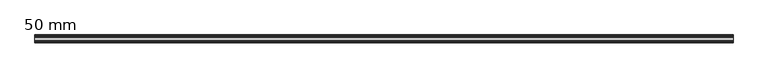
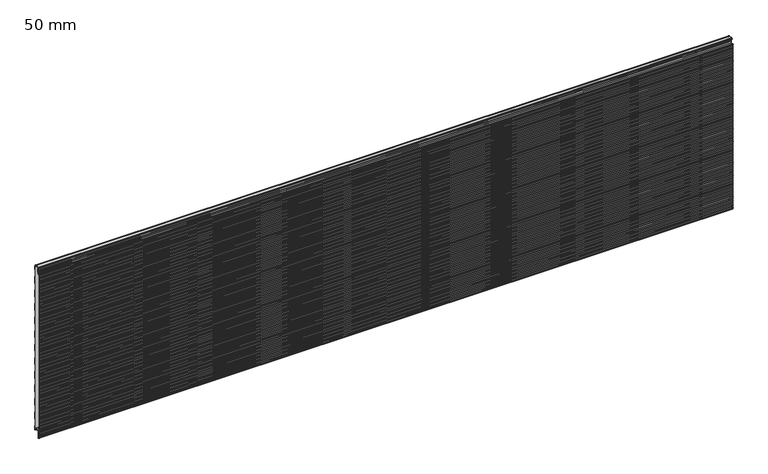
"""IFC4 building model written with IfcOpenShell, lengths in millimetres: plate geometry, HIANSA PANEL - H20.F05.001-HFM-PANELES DE FACHADA HOR - PANEL MICROPERFILADO - Panel de Muro Cortina : 50 mm."""

from ifc_helpers import new_model, si_unit, point, frame, frame_2d, origin, place, context, project, spatial, polyline, circle_curve, trimmed, segment, composite_curve, outline, extrude, source, transform, mapped, element, save


def plate_50_mm_21d456d9(model_context):
    return source(origin(), model_context, "Body", "SweptSolid", [
        extrude(outline(polyline([(-34.0928552, 1122.4810465), (-33.2950639, 1122.9800953), (-13.698739, 1122.9800953), (-12.9009477, 1122.4810465), (-34.0928552, 1122.4810465)])), frame((-2200.0, 0.0, 0.0), z_axis=(1.0, 0.0, 0.0), x_axis=(0.0, 1.0, 0.0)), (0.0, 0.0, 1.0), 4400.0),
        extrude(outline(polyline([(-34.0762276, 25.6210466), (-12.9205792, 25.6210466), (-13.7002597, 25.1210465), (-33.2965471, 25.1210465), (-34.0762276, 25.6210466)])), frame((-2200.0, 0.0, 0.0), z_axis=(1.0, 0.0, 0.0), x_axis=(0.0, 1.0, 0.0)), (0.0, 0.0, 1.0), 4400.0),
        extrude(outline(composite_curve([segment(polyline([(-39.4621895, -19.2009512), (-39.4621895, 22.7800953)]), True, "CONTINUOUS"), segment(trimmed(circle_curve(frame_2d((-36.6221895, 22.7800953)), 2.84), [point((-39.4621895, 22.7800953))], [point((-36.6221895, 25.6200953))], False, "CARTESIAN"), True, "CONTINUOUS"), segment(polyline([(-36.6221895, 25.6200953), (-34.0747442, 25.6200953), (-33.2950639, 25.1200953), (-36.6221895, 25.1200953)]), True, "CONTINUOUS"), segment(trimmed(circle_curve(frame_2d((-36.6221895, 22.7800953)), 2.34), [point((-36.6221895, 25.1200953))], [point((-38.9621895, 22.7800953))], True, "CARTESIAN"), True, "CONTINUOUS"), segment(polyline([(-38.9621895, 22.7800953), (-38.9621895, -19.0009512)]), True, "CONTINUOUS"), segment(trimmed(circle_curve(frame_2d((-39.6621895, -19.0009512)), 0.7), [point((-38.9621895, -19.0009512))], [point((-39.6621895, -19.7009512))], False, "CARTESIAN"), True, "CONTINUOUS"), segment(polyline([(-39.6621895, -19.7009512), (-43.4121895, -19.7009512)]), True, "CONTINUOUS"), segment(trimmed(circle_curve(frame_2d((-43.4121895, -19.0009512)), 0.7), [point((-43.4121895, -19.7009512))], [point((-44.1121895, -19.0009512))], False, "CARTESIAN"), True, "CONTINUOUS"), segment(polyline([(-44.1121895, -19.0009512), (-44.1121895, -10.8354413)]), True, "CONTINUOUS"), segment(trimmed(circle_curve(frame_2d((-45.4121895, -10.8354413)), 1.3), [point((-44.1121895, -10.8354413))], [point((-45.4121895, -9.5354413))], True, "CARTESIAN"), True, "CONTINUOUS"), segment(polyline([(-45.4121895, -9.5354413), (-47.8016102, -9.5354413)]), True, "CONTINUOUS"), segment(trimmed(circle_curve(frame_2d((-47.8016102, -7.9354413)), 1.6), [point((-47.8016102, -9.5354413))], [point((-49.3489873, -8.3424108))], False, "CARTESIAN"), True, "CONTINUOUS"), segment(polyline([(-49.3489873, -8.3424108), (-50.0, -5.8671339), (-48.9729658, 0.1648575), (-49.9990488, 6.1645587), (-48.9729147, 12.1645587), (-49.9990488, 18.1645587), (-48.9729147, 24.1645587), (-49.9990488, 30.1645587), (-48.9729147, 36.1645587), (-49.9990488, 42.1645587), (-48.9729147, 48.1645587), (-49.9990488, 54.1645587), (-48.9729147, 60.1645587), (-49.9990488, 66.1645587), (-48.9729147, 72.1645587), (-49.9990488, 78.1645587), (-48.9729147, 84.1645587), (-49.9990488, 90.1645587), (-48.9729147, 96.1645587), (-49.9990488, 102.1645587), (-48.9729147, 108.1645587), (-49.9990488, 114.1645587), (-48.9729147, 120.1645587), (-49.9990488, 126.1645587), (-48.9729147, 132.1645587), (-49.9990488, 138.1645587), (-48.9729147, 144.1645587), (-49.9990488, 150.1645587), (-48.9729147, 156.1645587), (-49.9990488, 162.1645587), (-48.9729147, 168.1645587), (-49.9990488, 174.1645587), (-48.9729147, 180.1645587), (-49.9990488, 186.1645587), (-48.9729147, 192.1645587), (-49.9990488, 198.1645587), (-48.9729147, 204.1645587), (-49.9990488, 210.1645587), (-48.9729147, 216.1645587), (-49.9990488, 222.1645587), (-48.9729147, 228.1645587), (-49.9990488, 234.1645587), (-48.9729147, 240.1645587), (-49.9990488, 246.1645587), (-48.9729147, 252.1645587), (-49.9990488, 258.1645587), (-48.9729147, 264.1645587), (-49.9990488, 270.1645587), (-48.9729147, 276.1645587), (-49.9990488, 282.1645587), (-48.9729147, 288.1645587), (-49.9990488, 294.1645587), (-48.9729147, 300.1645587), (-49.9990488, 306.1645587), (-48.9729147, 312.1645587), (-49.9990488, 318.1645587), (-48.9729147, 324.1645587), (-49.9990488, 330.1645587), (-48.9729147, 336.1645587), (-49.9990488, 342.1645587), (-48.9729147, 348.1645587), (-49.9990488, 354.1645587), (-48.9729147, 360.1645587), (-49.9990488, 366.1645587), (-48.9729147, 372.1645587), (-49.9990488, 378.1645587), (-48.9729147, 384.1645587), (-49.9990488, 390.1645587), (-48.9729147, 396.1645587), (-49.9990488, 402.1645587), (-48.9729147, 408.1645587), (-49.9990488, 414.1645587), (-48.9729147, 420.1645587), (-49.9990488, 426.1645587), (-48.9729147, 432.1645587), (-49.9990488, 438.1645587), (-48.9729147, 444.1645587), (-49.9990488, 450.1645587), (-48.9729147, 456.1645587), (-49.9990488, 462.1645587), (-48.9729147, 468.1645587), (-49.9990488, 474.1645587), (-48.9729147, 480.1645587), (-49.9990488, 486.1645587), (-48.9729147, 492.1645587), (-49.9990488, 498.1645587), (-48.9729147, 504.1645587), (-49.9990488, 510.1645587), (-48.9729147, 516.1645587), (-49.9990488, 522.1645587), (-48.9729147, 528.1645587), (-49.9990488, 534.1645587), (-48.9729147, 540.1645587), (-49.9990488, 546.1645587), (-48.9729147, 552.1645587), (-49.9990488, 558.1645587), (-48.9729147, 564.1645587), (-49.9990488, 570.1645587), (-48.9729147, 576.1645587), (-49.9990488, 582.1645587), (-48.9729147, 588.1645587), (-49.9990488, 594.1645587), (-48.9729147, 600.1645587), (-49.9990488, 606.1645587), (-48.9729147, 612.1645587), (-49.9990488, 618.1645587), (-48.9729147, 624.1645587), (-49.9990488, 630.1645587), (-48.9729147, 636.1645587), (-49.9990488, 642.1645587), (-48.9729147, 648.1645587), (-49.9990488, 654.1645587), (-48.9729147, 660.1645587), (-49.9990488, 666.1645587), (-48.9729147, 672.1645587), (-49.9990488, 678.1645587), (-48.9729147, 684.1645587), (-49.9990488, 690.1645587), (-48.9729147, 696.1645587), (-49.9990488, 702.1645587), (-48.9729147, 708.1645587), (-49.9990488, 714.1645587), (-48.9729147, 720.1645587), (-49.9990488, 726.1645587), (-48.9729147, 732.1645587), (-49.9990488, 738.1645587), (-48.9729147, 744.1645587), (-49.9990488, 750.1645587), (-48.9729147, 756.1645587), (-49.9990488, 762.1645587), (-48.9729147, 768.1645587), (-49.9990488, 774.1645587), (-48.9729147, 780.1645587), (-49.9990488, 786.1645587), (-48.9729147, 792.1645587), (-49.9990488, 798.1645587), (-48.9729147, 804.1645587), (-49.9990488, 810.1645587), (-48.9729147, 816.1645587), (-49.9990488, 822.1645587), (-48.9729147, 828.1645587), (-49.9990488, 834.1645587), (-48.9729147, 840.1645587), (-49.9990488, 846.1645587), (-48.9729147, 852.1645587), (-49.9990488, 858.1645587), (-48.9729147, 864.1645587), (-49.9990488, 870.1645587), (-48.9729147, 876.1645587), (-49.9990488, 882.1645587), (-48.9729147, 888.1645587), (-49.9990488, 894.1645587), (-48.9729147, 900.1645587), (-49.9990488, 906.1645587), (-48.9729147, 912.1645587), (-49.9990488, 918.1645587), (-48.9729147, 924.1645587), (-49.9990488, 930.1645587), (-48.9729147, 936.1645587), (-49.9990488, 942.1645587), (-48.9729147, 948.1645587), (-49.9990488, 954.1645587), (-48.9729147, 960.1645587), (-49.9990488, 966.1645587), (-48.9729147, 972.1645587), (-49.9990488, 978.1645587), (-48.9729147, 984.1645587), (-49.9990488, 990.1645587), (-48.9729147, 996.1645587), (-49.9990488, 1002.1645587), (-48.9729147, 1008.1645587), (-49.9990488, 1014.1645587), (-48.9729147, 1020.1645587), (-49.9990488, 1026.1645587), (-48.9729147, 1032.1645587), (-49.9990488, 1038.1645587), (-48.9729147, 1044.1645587), (-49.9990488, 1050.1645587), (-48.9729147, 1056.1645587), (-49.9990488, 1062.1645587), (-48.9729147, 1068.1645587), (-49.9990488, 1074.1645587), (-48.9729658, 1080.1642599), (-50.0, 1086.1962513), (-49.3489873, 1088.6715282)]), True, "CONTINUOUS"), segment(trimmed(circle_curve(frame_2d((-47.8016102, 1088.2645587)), 1.6), [point((-49.3489873, 1088.6715282))], [point((-47.8016102, 1089.8645587))], False, "CARTESIAN"), True, "CONTINUOUS"), segment(polyline([(-47.8016102, 1089.8645587), (-45.6621895, 1089.8645587)]), True, "CONTINUOUS"), segment(trimmed(circle_curve(frame_2d((-45.6621895, 1089.1645587)), 0.7), [point((-45.6621895, 1089.8645587))], [point((-44.9621895, 1089.1645587))], False, "CARTESIAN"), True, "CONTINUOUS"), segment(polyline([(-44.9621895, 1089.1645587), (-44.9621895, 1080.4990488)]), True, "CONTINUOUS"), segment(trimmed(circle_curve(frame_2d((-43.6621895, 1080.4990488)), 1.3), [point((-44.9621895, 1080.4990488))], [point((-43.6621895, 1079.1990488))], True, "CARTESIAN"), True, "CONTINUOUS"), segment(polyline([(-43.6621895, 1079.1990488), (-39.4121895, 1079.1990488)]), True, "CONTINUOUS"), segment(trimmed(circle_curve(frame_2d((-39.4121895, 1080.4990488)), 1.3), [point((-39.4121895, 1079.1990488))], [point((-38.1121895, 1080.4990488))], True, "CARTESIAN"), True, "CONTINUOUS"), segment(polyline([(-38.1121895, 1080.4990488), (-38.1121895, 1082.1003519)]), True, "CONTINUOUS"), segment(trimmed(circle_curve(frame_2d((-36.4121895, 1082.1003519)), 1.7), [point((-38.1121895, 1082.1003519))], [point((-37.3872694, 1083.4929104))], False, "CARTESIAN"), True, "CONTINUOUS"), segment(polyline([(-37.3872694, 1083.4929104), (-31.3297519, 1087.7344298)]), True, "CONTINUOUS"), segment(trimmed(circle_curve(frame_2d((-32.3621895, 1089.2089035)), 1.8), [point((-31.3297519, 1087.7344298))], [point((-30.5621895, 1089.2089035))], True, "CARTESIAN"), True, "CONTINUOUS"), segment(polyline([(-30.5621895, 1089.2089035), (-30.5621895, 1098.3598183), (-29.8467194, 1099.5990488)]), True, "CONTINUOUS"), segment(trimmed(circle_curve(frame_2d((-30.5395397, 1099.9990488)), 0.8), [point((-29.8467194, 1099.5990488))], [point((-29.8467194, 1100.3990488))], True, "CARTESIAN"), True, "CONTINUOUS"), segment(polyline([(-29.8467194, 1100.3990488), (-30.5621895, 1101.6382793), (-30.5621895, 1110.7891941)]), True, "CONTINUOUS"), segment(trimmed(circle_curve(frame_2d((-32.3621895, 1110.7891941)), 1.8), [point((-30.5621895, 1110.7891941))], [point((-31.3297519, 1112.2636677))], True, "CARTESIAN"), True, "CONTINUOUS"), segment(polyline([(-31.3297519, 1112.2636677), (-37.3872694, 1116.5051872)]), True, "CONTINUOUS"), segment(trimmed(circle_curve(frame_2d((-36.4121895, 1117.8977457)), 1.7), [point((-37.3872694, 1116.5051872))], [point((-38.1121895, 1117.8977457))], False, "CARTESIAN"), True, "CONTINUOUS"), segment(polyline([(-38.1121895, 1117.8977457), (-38.1121895, 1121.2800953)]), True, "CONTINUOUS"), segment(trimmed(circle_curve(frame_2d((-36.4121895, 1121.2800953)), 1.7), [point((-38.1121895, 1121.2800953))], [point((-36.4121895, 1122.9800953))], False, "CARTESIAN"), True, "CONTINUOUS"), segment(polyline([(-36.4121895, 1122.9800953), (-33.2950639, 1122.9800953), (-34.0943758, 1122.4800953), (-36.4121895, 1122.4800953)]), True, "CONTINUOUS"), segment(trimmed(circle_curve(frame_2d((-36.4121895, 1121.2800953)), 1.2), [point((-36.4121895, 1122.4800953))], [point((-37.6121895, 1121.2800953))], True, "CARTESIAN"), True, "CONTINUOUS"), segment(polyline([(-37.6121895, 1121.2800953), (-37.6121895, 1117.8977457)]), True, "CONTINUOUS"), segment(trimmed(circle_curve(frame_2d((-36.4121895, 1117.8977457)), 1.2), [point((-37.6121895, 1117.8977457))], [point((-37.1004812, 1116.9147632))], True, "CARTESIAN"), True, "CONTINUOUS"), segment(polyline([(-37.1004812, 1116.9147632), (-31.0429637, 1112.6732438)]), True, "CONTINUOUS"), segment(trimmed(circle_curve(frame_2d((-32.3621895, 1110.7891941)), 2.3), [point((-31.0429637, 1112.6732438))], [point((-30.0621895, 1110.7891941))], False, "CARTESIAN"), True, "CONTINUOUS"), segment(polyline([(-30.0621895, 1110.7891941), (-30.0621895, 1101.7722539), (-29.4137067, 1100.6490488)]), True, "CONTINUOUS"), segment(trimmed(circle_curve(frame_2d((-30.5395397, 1099.9990488)), 1.3), [point((-29.4137067, 1100.6490488))], [point((-29.4137067, 1099.3490488))], False, "CARTESIAN"), True, "CONTINUOUS"), segment(polyline([(-29.4137067, 1099.3490488), (-30.0621895, 1098.2258437), (-30.0621895, 1089.2089035)]), True, "CONTINUOUS"), segment(trimmed(circle_curve(frame_2d((-32.3621895, 1089.2089035)), 2.3), [point((-30.0621895, 1089.2089035))], [point((-31.0429637, 1087.3248538))], False, "CARTESIAN"), True, "CONTINUOUS"), segment(polyline([(-31.0429637, 1087.3248538), (-37.1004812, 1083.0833344)]), True, "CONTINUOUS"), segment(trimmed(circle_curve(frame_2d((-36.4121895, 1082.1003519)), 1.2), [point((-37.1004812, 1083.0833344))], [point((-37.6121895, 1082.1003519))], True, "CARTESIAN"), True, "CONTINUOUS"), segment(polyline([(-37.6121895, 1082.1003519), (-37.6121895, 1080.4990488)]), True, "CONTINUOUS"), segment(trimmed(circle_curve(frame_2d((-39.4121895, 1080.4990488)), 1.8), [point((-37.6121895, 1080.4990488))], [point((-39.4121895, 1078.6990488))], False, "CARTESIAN"), True, "CONTINUOUS"), segment(polyline([(-39.4121895, 1078.6990488), (-43.6621895, 1078.6990488)]), True, "CONTINUOUS"), segment(trimmed(circle_curve(frame_2d((-43.6621895, 1080.4990488)), 1.8), [point((-43.6621895, 1078.6990488))], [point((-45.4621895, 1080.4990488))], False, "CARTESIAN"), True, "CONTINUOUS"), segment(polyline([(-45.4621895, 1080.4990488), (-45.4621895, 1089.3645587), (-47.8016102, 1089.3645587)]), True, "CONTINUOUS"), segment(trimmed(circle_curve(frame_2d((-47.8016102, 1088.2645587)), 1.1), [point((-47.8016102, 1089.3645587))], [point((-48.8654319, 1088.5443502))], True, "CARTESIAN"), True, "CONTINUOUS"), segment(polyline([(-48.8654319, 1088.5443502), (-49.4889499, 1086.1736137), (-48.4657383, 1080.1640732), (-49.4917893, 1074.1645587), (-48.4656553, 1068.1645587), (-49.4917893, 1062.1645587), (-48.4656553, 1056.1645587), (-49.4917893, 1050.1645587), (-48.4656553, 1044.1645587), (-49.4917893, 1038.1645587), (-48.4656553, 1032.1645587), (-49.4917893, 1026.1645587), (-48.4656553, 1020.1645587), (-49.4917893, 1014.1645587), (-48.4656553, 1008.1645587), (-49.4917893, 1002.1645587), (-48.4656553, 996.1645587), (-49.4917893, 990.1645587), (-48.4656553, 984.1645587), (-49.4917893, 978.1645587), (-48.4656553, 972.1645587), (-49.4917893, 966.1645587), (-48.4656553, 960.1645587), (-49.4917893, 954.1645587), (-48.4656553, 948.1645587), (-49.4917893, 942.1645587), (-48.4656553, 936.1645587), (-49.4917893, 930.1645587), (-48.4656553, 924.1645587), (-49.4917893, 918.1645587), (-48.4656553, 912.1645587), (-49.4917893, 906.1645587), (-48.4656553, 900.1645587), (-49.4917893, 894.1645587), (-48.4656553, 888.1645587), (-49.4917893, 882.1645587), (-48.4656553, 876.1645587), (-49.4917893, 870.1645587), (-48.4656553, 864.1645587), (-49.4917893, 858.1645587), (-48.4656553, 852.1645587), (-49.4917893, 846.1645587), (-48.4656553, 840.1645587), (-49.4917893, 834.1645587), (-48.4656553, 828.1645587), (-49.4917893, 822.1645587), (-48.4656553, 816.1645587), (-49.4917893, 810.1645587), (-48.4656553, 804.1645587), (-49.4917893, 798.1645587), (-48.4656553, 792.1645587), (-49.4917893, 786.1645587), (-48.4656553, 780.1645587), (-49.4917893, 774.1645587), (-48.4656553, 768.1645587), (-49.4917893, 762.1645587), (-48.4656553, 756.1645587), (-49.4917893, 750.1645587), (-48.4656553, 744.1645587), (-49.4917893, 738.1645587), (-48.4656553, 732.1645587), (-49.4917893, 726.1645587), (-48.4656553, 720.1645587), (-49.4917893, 714.1645587), (-48.4656553, 708.1645587), (-49.4917893, 702.1645587), (-48.4656553, 696.1645587), (-49.4917893, 690.1645587), (-48.4656553, 684.1645587), (-49.4917893, 678.1645587), (-48.4656553, 672.1645587), (-49.4917893, 666.1645587), (-48.4656553, 660.1645587), (-49.4917893, 654.1645587), (-48.4656553, 648.1645587), (-49.4917893, 642.1645587), (-48.4656553, 636.1645587), (-49.4917893, 630.1645587), (-48.4656553, 624.1645587), (-49.4917893, 618.1645587), (-48.4656553, 612.1645587), (-49.4917893, 606.1645587), (-48.4656553, 600.1645587), (-49.4917893, 594.1645587), (-48.4656553, 588.1645587), (-49.4917893, 582.1645587), (-48.4656553, 576.1645587), (-49.4917893, 570.1645587), (-48.4656553, 564.1645587), (-49.4917893, 558.1645587), (-48.4656553, 552.1645587), (-49.4917893, 546.1645587), (-48.4656553, 540.1645587), (-49.4917893, 534.1645587), (-48.4656553, 528.1645587), (-49.4917893, 522.1645587), (-48.4656553, 516.1645587), (-49.4917893, 510.1645587), (-48.4656553, 504.1645587), (-49.4917893, 498.1645587), (-48.4656553, 492.1645587), (-49.4917893, 486.1645587), (-48.4656553, 480.1645587), (-49.4917893, 474.1645587), (-48.4656553, 468.1645587), (-49.4917893, 462.1645587), (-48.4656553, 456.1645587), (-49.4917893, 450.1645587), (-48.4656553, 444.1645587), (-49.4917893, 438.1645587), (-48.4656553, 432.1645587), (-49.4917893, 426.1645587), (-48.4656553, 420.1645587), (-49.4917893, 414.1645587), (-48.4656553, 408.1645587), (-49.4917893, 402.1645587), (-48.4656553, 396.1645587), (-49.4917893, 390.1645587), (-48.4656553, 384.1645587), (-49.4917893, 378.1645587), (-48.4656553, 372.1645587), (-49.4917893, 366.1645587), (-48.4656553, 360.1645587), (-49.4917893, 354.1645587), (-48.4656553, 348.1645587), (-49.4917893, 342.1645587), (-48.4656553, 336.1645587), (-49.4917893, 330.1645587), (-48.4656553, 324.1645587), (-49.4917893, 318.1645587), (-48.4656553, 312.1645587), (-49.4917893, 306.1645587), (-48.4656553, 300.1645587), (-49.4917893, 294.1645587), (-48.4656553, 288.1645587), (-49.4917893, 282.1645587), (-48.4656553, 276.1645587), (-49.4917893, 270.1645587), (-48.4656553, 264.1645587), (-49.4917893, 258.1645587), (-48.4656553, 252.1645587), (-49.4917893, 246.1645587), (-48.4656553, 240.1645587), (-49.4917893, 234.1645587), (-48.4656553, 228.1645587), (-49.4917893, 222.1645587), (-48.4656553, 216.1645587), (-49.4917893, 210.1645587), (-48.4656553, 204.1645587), (-49.4917893, 198.1645587), (-48.4656553, 192.1645587), (-49.4917893, 186.1645587), (-48.4656553, 180.1645587), (-49.4917893, 174.1645587), (-48.4656553, 168.1645587), (-49.4917893, 162.1645587), (-48.4656553, 156.1645587), (-49.4917893, 150.1645587), (-48.4656553, 144.1645587), (-49.4917893, 138.1645587), (-48.4656553, 132.1645587), (-49.4917893, 126.1645587), (-48.4656553, 120.1645587), (-49.4917893, 114.1645587), (-48.4656553, 108.1645587), (-49.4917893, 102.1645587), (-48.4656553, 96.1645587), (-49.4917893, 90.1645587), (-48.4656553, 84.1645587), (-49.4917893, 78.1645587), (-48.4656553, 72.1645587), (-49.4917893, 66.1645587), (-48.4656553, 60.1645587), (-49.4917893, 54.1645587), (-48.4656553, 48.1645587), (-49.4917893, 42.1645587), (-48.4656553, 36.1645587), (-49.4917893, 30.1645587), (-48.4656553, 24.1645587), (-49.4917893, 18.1645587), (-48.4656553, 12.1645587), (-49.4917893, 6.1645587), (-48.4657383, 0.1650443), (-49.4889499, -5.8444963), (-48.8654319, -8.2152328)]), True, "CONTINUOUS"), segment(trimmed(circle_curve(frame_2d((-47.8016102, -7.9354413)), 1.1), [point((-48.8654319, -8.2152328))], [point((-47.8016102, -9.0354413))], True, "CARTESIAN"), True, "CONTINUOUS"), segment(polyline([(-47.8016102, -9.0354413), (-45.4121895, -9.0354413)]), True, "CONTINUOUS"), segment(trimmed(circle_curve(frame_2d((-45.4121895, -10.8354413)), 1.8), [point((-45.4121895, -9.0354413))], [point((-43.6121895, -10.8354413))], False, "CARTESIAN"), True, "CONTINUOUS"), segment(polyline([(-43.6121895, -10.8354413), (-43.6121895, -19.2009512), (-39.4621895, -19.2009512)]), True, "CONTINUOUS")], self_intersect=False)), frame((-2200.0, 0.0, 0.0), z_axis=(1.0, 0.0, 0.0), x_axis=(0.0, 1.0, 0.0)), (0.0, 0.0, 1.0), 4400.0),
        extrude(outline(composite_curve([segment(polyline([(-45.4131407, -9.0344901), (-47.8025614, -9.0344901)]), True, "CONTINUOUS"), segment(trimmed(circle_curve(frame_2d((-47.8025614, -7.9344901)), 1.1), [point((-47.8025614, -9.0344901))], [point((-48.8663831, -8.2142816))], False, "CARTESIAN"), True, "CONTINUOUS"), segment(polyline([(-48.8663831, -8.2142816), (-49.4899011, -5.8435451), (-48.4666895, 0.1659955), (-49.4927406, 6.1655099), (-48.4666065, 12.1655099), (-49.4927406, 18.1655099), (-48.4666065, 24.1655099), (-49.4927406, 30.1655099), (-48.4666065, 36.1655099), (-49.4927406, 42.1655099), (-48.4666065, 48.1655099), (-49.4927406, 54.1655099), (-48.4666065, 60.1655099), (-49.4927406, 66.1655099), (-48.4666065, 72.1655099), (-49.4927406, 78.1655099), (-48.4666065, 84.1655099), (-49.4927406, 90.1655099), (-48.4666065, 96.1655099), (-49.4927406, 102.1655099), (-48.4666065, 108.1655099), (-49.4927406, 114.1655099), (-48.4666065, 120.1655099), (-49.4927406, 126.1655099), (-48.4666065, 132.1655099), (-49.4927406, 138.1655099), (-48.4666065, 144.1655099), (-49.4927406, 150.1655099), (-48.4666065, 156.1655099), (-49.4927406, 162.1655099), (-48.4666065, 168.1655099), (-49.4927406, 174.1655099), (-48.4666065, 180.1655099), (-49.4927406, 186.1655099), (-48.4666065, 192.1655099), (-49.4927406, 198.1655099), (-48.4666065, 204.1655099), (-49.4927406, 210.1655099), (-48.4666065, 216.1655099), (-49.4927406, 222.1655099), (-48.4666065, 228.1655099), (-49.4927406, 234.1655099), (-48.4666065, 240.1655099), (-49.4927406, 246.1655099), (-48.4666065, 252.1655099), (-49.4927406, 258.1655099), (-48.4666065, 264.1655099), (-49.4927406, 270.1655099), (-48.4666065, 276.1655099), (-49.4927406, 282.1655099), (-48.4666065, 288.1655099), (-49.4927406, 294.1655099), (-48.4666065, 300.1655099), (-49.4927406, 306.1655099), (-48.4666065, 312.1655099), (-49.4927406, 318.1655099), (-48.4666065, 324.1655099), (-49.4927406, 330.1655099), (-48.4666065, 336.1655099), (-49.4927406, 342.1655099), (-48.4666065, 348.1655099), (-49.4927406, 354.1655099), (-48.4666065, 360.1655099), (-49.4927406, 366.1655099), (-48.4666065, 372.1655099), (-49.4927406, 378.1655099), (-48.4666065, 384.1655099), (-49.4927406, 390.1655099), (-48.4666065, 396.1655099), (-49.4927406, 402.1655099), (-48.4666065, 408.1655099), (-49.4927406, 414.1655099), (-48.4666065, 420.1655099), (-49.4927406, 426.1655099), (-48.4666065, 432.1655099), (-49.4927406, 438.1655099), (-48.4666065, 444.1655099), (-49.4927406, 450.1655099), (-48.4666065, 456.1655099), (-49.4927406, 462.1655099), (-48.4666065, 468.1655099), (-49.4927406, 474.1655099), (-48.4666065, 480.1655099), (-49.4927406, 486.1655099), (-48.4666065, 492.1655099), (-49.4927406, 498.1655099), (-48.4666065, 504.1655099), (-49.4927406, 510.1655099), (-48.4666065, 516.1655099), (-49.4927406, 522.1655099), (-48.4666065, 528.1655099), (-49.4927406, 534.1655099), (-48.4666065, 540.1655099), (-49.4927406, 546.1655099), (-48.4666065, 552.1655099), (-49.4927406, 558.1655099), (-48.4666065, 564.1655099), (-49.4927406, 570.1655099), (-48.4666065, 576.1655099), (-49.4927406, 582.1655099), (-48.4666065, 588.1655099), (-49.4927406, 594.1655099), (-48.4666065, 600.1655099), (-49.4927406, 606.1655099), (-48.4666065, 612.1655099), (-49.4927406, 618.1655099), (-48.4666065, 624.1655099), (-49.4927406, 630.1655099), (-48.4666065, 636.1655099), (-49.4927406, 642.1655099), (-48.4666065, 648.1655099), (-49.4927406, 654.1655099), (-48.4666065, 660.1655099), (-49.4927406, 666.1655099), (-48.4666065, 672.1655099), (-49.4927406, 678.1655099), (-48.4666065, 684.1655099), (-49.4927406, 690.1655099), (-48.4666065, 696.1655099), (-49.4927406, 702.1655099), (-48.4666065, 708.1655099), (-49.4927406, 714.1655099), (-48.4666065, 720.1655099), (-49.4927406, 726.1655099), (-48.4666065, 732.1655099), (-49.4927406, 738.1655099), (-48.4666065, 744.1655099), (-49.4927406, 750.1655099), (-48.4666065, 756.1655099), (-49.4927406, 762.1655099), (-48.4666065, 768.1655099), (-49.4927406, 774.1655099), (-48.4666065, 780.1655099), (-49.4927406, 786.1655099), (-48.4666065, 792.1655099), (-49.4927406, 798.1655099), (-48.4666065, 804.1655099), (-49.4927406, 810.1655099), (-48.4666065, 816.1655099), (-49.4927406, 822.1655099), (-48.4666065, 828.1655099), (-49.4927406, 834.1655099), (-48.4666065, 840.1655099), (-49.4927406, 846.1655099), (-48.4666065, 852.1655099), (-49.4927406, 858.1655099), (-48.4666065, 864.1655099), (-49.4927406, 870.1655099), (-48.4666065, 876.1655099), (-49.4927406, 882.1655099), (-48.4666065, 888.1655099), (-49.4927406, 894.1655099), (-48.4666065, 900.1655099), (-49.4927406, 906.1655099), (-48.4666065, 912.1655099), (-49.4927406, 918.1655099), (-48.4666065, 924.1655099), (-49.4927406, 930.1655099), (-48.4666065, 936.1655099), (-49.4927406, 942.1655099), (-48.4666065, 948.1655099), (-49.4927406, 954.1655099), (-48.4666065, 960.1655099), (-49.4927406, 966.1655099), (-48.4666065, 972.1655099), (-49.4927406, 978.1655099), (-48.4666065, 984.1655099), (-49.4927406, 990.1655099), (-48.4666065, 996.1655099), (-49.4927406, 1002.1655099), (-48.4666065, 1008.1655099), (-49.4927406, 1014.1655099), (-48.4666065, 1020.1655099), (-49.4927406, 1026.1655099), (-48.4666065, 1032.1655099), (-49.4927406, 1038.1655099), (-48.4666065, 1044.1655099), (-49.4927406, 1050.1655099), (-48.4666065, 1056.1655099), (-49.4927406, 1062.1655099), (-48.4666065, 1068.1655099), (-49.4927406, 1074.1655099), (-48.4666895, 1080.1650244), (-49.4899011, 1086.1745649), (-48.8663831, 1088.5453014)]), True, "CONTINUOUS"), segment(trimmed(circle_curve(frame_2d((-47.8025614, 1088.2655099)), 1.1), [point((-48.8663831, 1088.5453014))], [point((-47.8025614, 1089.3655099))], False, "CARTESIAN"), True, "CONTINUOUS"), segment(polyline([(-47.8025614, 1089.3655099), (-45.4631407, 1089.3655099), (-45.4631407, 1080.5)]), True, "CONTINUOUS"), segment(trimmed(circle_curve(frame_2d((-43.6631407, 1080.5)), 1.8), [point((-45.4631407, 1080.5))], [point((-43.6631407, 1078.7))], True, "CARTESIAN"), True, "CONTINUOUS"), segment(polyline([(-43.6631407, 1078.7), (-39.4131407, 1078.7)]), True, "CONTINUOUS"), segment(trimmed(circle_curve(frame_2d((-39.4131407, 1080.5)), 1.8), [point((-39.4131407, 1078.7))], [point((-37.6131407, 1080.5))], True, "CARTESIAN"), True, "CONTINUOUS"), segment(polyline([(-37.6131407, 1080.5), (-37.6131407, 1082.1013031)]), True, "CONTINUOUS"), segment(trimmed(circle_curve(frame_2d((-36.4131407, 1082.1013031)), 1.2), [point((-37.6131407, 1082.1013031))], [point((-37.1014324, 1083.0842856))], False, "CARTESIAN"), True, "CONTINUOUS"), segment(polyline([(-37.1014324, 1083.0842856), (-31.0439149, 1087.325805)]), True, "CONTINUOUS"), segment(trimmed(circle_curve(frame_2d((-32.3631408, 1089.2098547)), 2.3000001), [point((-31.0439149, 1087.325805))], [point((-30.0631407, 1089.2098547))], True, "CARTESIAN"), True, "CONTINUOUS"), segment(polyline([(-30.0631407, 1089.2098547), (-30.0631407, 1098.2267949), (-29.4146579, 1099.35)]), True, "CONTINUOUS"), segment(trimmed(circle_curve(frame_2d((-30.5404909, 1100.0)), 1.3), [point((-29.4146579, 1099.35))], [point((-29.4146579, 1100.65))], True, "CARTESIAN"), True, "CONTINUOUS"), segment(polyline([(-29.4146579, 1100.65), (-30.0631407, 1101.7732051), (-30.0631407, 1110.7901453)]), True, "CONTINUOUS"), segment(trimmed(circle_curve(frame_2d((-32.3631407, 1110.7901453)), 2.2999999), [point((-30.0631407, 1110.7901453))], [point((-31.0439149, 1112.6741949))], True, "CARTESIAN"), True, "CONTINUOUS"), segment(polyline([(-31.0439149, 1112.6741949), (-37.1014324, 1116.9157143)]), True, "CONTINUOUS"), segment(trimmed(circle_curve(frame_2d((-36.4131408, 1117.8986968)), 1.1999999), [point((-37.1014324, 1116.9157143))], [point((-37.6131407, 1117.8986968))], False, "CARTESIAN"), True, "CONTINUOUS"), segment(polyline([(-37.6131407, 1117.8986968), (-37.6131407, 1121.2810465)]), True, "CONTINUOUS"), segment(trimmed(circle_curve(frame_2d((-36.4131407, 1121.2810465)), 1.2000001), [point((-37.6131407, 1121.2810465))], [point((-36.4131407, 1122.4810465))], False, "CARTESIAN"), True, "CONTINUOUS"), segment(polyline([(-36.4131407, 1122.4810465), (-7.75, 1122.4810465)]), True, "CONTINUOUS"), segment(trimmed(circle_curve(frame_2d((-7.75, 1121.4810465)), 1.0), [point((-7.75, 1122.4810465))], [point((-6.75, 1121.4810465))], False, "CARTESIAN"), True, "CONTINUOUS"), segment(polyline([(-6.75, 1121.4810465), (-6.75, 1115.3317319)]), True, "CONTINUOUS"), segment(trimmed(circle_curve(frame_2d((-4.746, 1115.3317319)), 2.004), [point((-6.75, 1115.3317319))], [point((-4.746, 1113.3277319))], True, "CARTESIAN"), True, "CONTINUOUS"), segment(polyline([(-4.746, 1113.3277319), (-1.5, 1113.3277319)]), True, "CONTINUOUS"), segment(trimmed(circle_curve(frame_2d((-1.5, 1112.3277319)), 1.0), [point((-1.5, 1113.3277319))], [point((-0.5, 1112.3277319))], False, "CARTESIAN"), True, "CONTINUOUS"), segment(polyline([(-0.5, 1112.3277319), (-0.5, 1087.4488708), (-1.5, 1084.4488708), (-1.5, 1044.2865931), (-0.5, 1041.2865931), (-0.5, 996.4488708), (-1.5, 993.4488708), (-1.5, 953.2865931), (-0.5, 950.2865931), (-0.5, 905.4488708), (-1.5, 902.4488708), (-1.5, 862.2865931), (-0.5, 859.2865931), (-0.5, 814.4488708), (-1.5, 811.4488708), (-1.5, 771.2865931), (-0.5, 768.2865931), (-0.5, 723.4488708), (-1.5, 720.4488708), (-1.5, 680.2865931), (-0.5, 677.2865931), (-0.5, 632.4488708), (-1.5, 629.4488708), (-1.5, 589.2865931), (-0.5, 586.2865931), (-0.5, 541.4488708), (-1.5, 538.4488708), (-1.5, 498.2865931), (-0.5, 495.2865931), (-0.5, 450.4488708), (-1.5, 447.4488708), (-1.5, 407.2865931), (-0.5, 404.2865931), (-0.5, 359.4488708), (-1.5, 356.4488708), (-1.5, 316.2865931), (-0.5, 313.2865931), (-0.5, 268.4488708), (-1.5, 265.4488708), (-1.5, 225.2865931), (-0.5, 222.2865931), (-0.5, 177.4488708), (-1.5, 174.4488708), (-1.5, 134.2865931), (-0.5, 131.2865931), (-0.5, 86.4488708), (-1.5, 83.4488708), (-1.5, 43.2865931), (-0.4999995, 40.2865931), (-0.4999995, 15.3677318)]), True, "CONTINUOUS"), segment(trimmed(circle_curve(frame_2d((-1.4999993, 15.3677318)), 0.9999997), [point((-0.4999995, 15.3677318))], [point((-1.4999993, 14.3677321))], False, "CARTESIAN"), True, "CONTINUOUS"), segment(polyline([(-1.4999993, 14.3677321), (-4.4999993, 14.367726)]), True, "CONTINUOUS"), segment(trimmed(circle_curve(frame_2d((-4.4999993, 15.367732)), 1.0000061), [point((-4.4999993, 14.367726))], [point((-5.5000054, 15.367732))], False, "CARTESIAN"), True, "CONTINUOUS"), segment(polyline([(-5.5000054, 15.367732), (-5.5000054, 23.5810465)]), True, "CONTINUOUS"), segment(trimmed(circle_curve(frame_2d((-7.5400056, 23.5810465)), 2.0400001), [point((-5.5000054, 23.5810465))], [point((-7.5400056, 25.6210466))], True, "CARTESIAN"), True, "CONTINUOUS"), segment(polyline([(-7.5400056, 25.6210466), (-36.6231406, 25.6210466)]), True, "CONTINUOUS"), segment(trimmed(circle_curve(frame_2d((-36.6231406, 22.7810466)), 2.84), [point((-36.6231406, 25.6210466))], [point((-39.4631407, 22.7810466))], True, "CARTESIAN"), True, "CONTINUOUS"), segment(polyline([(-39.4631407, 22.7810466), (-39.4631407, -19.2), (-43.6131407, -19.2), (-43.6131407, -10.8344901)]), True, "CONTINUOUS"), segment(trimmed(circle_curve(frame_2d((-45.4131407, -10.8344901)), 1.8), [point((-43.6131407, -10.8344901))], [point((-45.4131407, -9.0344901))], True, "CARTESIAN"), True, "CONTINUOUS")], self_intersect=False)), frame((-2200.0, 0.0, 0.0), z_axis=(1.0, 0.0, 0.0), x_axis=(0.0, 1.0, 0.0)), (0.0, 0.0, 1.0), 4400.0),
        extrude(outline(composite_curve([segment(trimmed(circle_curve(frame_2d((-7.5400057, 23.5810465)), 2.04), [point((-7.5400057, 25.6210465))], [point((-5.5000057, 23.5810465))], False, "CARTESIAN"), True, "CONTINUOUS"), segment(polyline([(-5.5000057, 23.5810465), (-5.5000057, 15.3677319)]), True, "CONTINUOUS"), segment(trimmed(circle_curve(frame_2d((-4.5, 15.3677319)), 1.0000057), [point((-5.5000057, 15.3677319))], [point((-4.4999981, 14.3677262))], True, "CARTESIAN"), True, "CONTINUOUS"), segment(polyline([(-4.4999981, 14.3677262), (-1.4999981, 14.3677319)]), True, "CONTINUOUS"), segment(trimmed(circle_curve(frame_2d((-1.5, 15.3677319)), 1.0), [point((-1.4999981, 14.3677319))], [point((-0.5, 15.3677319))], True, "CARTESIAN"), True, "CONTINUOUS"), segment(polyline([(-0.5, 15.3677319), (-0.5, 40.2865931), (-1.5, 43.2865931), (-1.5, 83.4488708), (-0.5, 86.4488708), (-0.5, 131.2865931), (-1.5, 134.2865931), (-1.5, 174.4488708), (-0.5, 177.4488708), (-0.5, 222.2865931), (-1.5, 225.2865931), (-1.5, 265.4488708), (-0.5, 268.4488708), (-0.5, 313.2865931), (-1.5, 316.2865931), (-1.5, 356.4488708), (-0.5, 359.4488708), (-0.5, 404.2865931), (-1.5, 407.2865931), (-1.5, 447.4488708), (-0.5, 450.4488708), (-0.5, 495.2865931), (-1.5, 498.2865931), (-1.5, 538.4488708), (-0.5, 541.4488708), (-0.5, 586.2865931), (-1.5, 589.2865931), (-1.5, 629.4488708), (-0.5, 632.4488708), (-0.5, 677.2865931), (-1.5, 680.2865931), (-1.5, 720.4488708), (-0.5, 723.4488708), (-0.5, 768.2865931), (-1.5, 771.2865931), (-1.5, 811.4488708), (-0.5, 814.4488708), (-0.5, 859.2865931), (-1.5, 862.2865931), (-1.5, 902.4488708), (-0.5, 905.4488708), (-0.5, 950.2865931), (-1.5, 953.2865931), (-1.5, 993.4488708), (-0.5, 996.4488708), (-0.5, 1041.2865931), (-1.5, 1044.2865931), (-1.5, 1084.4488708), (-0.5, 1087.4488708), (-0.5, 1112.3277319)]), True, "CONTINUOUS"), segment(trimmed(circle_curve(frame_2d((-1.5, 1112.3277319)), 1.0), [point((-0.5, 1112.3277319))], [point((-1.5, 1113.3277319))], True, "CARTESIAN"), True, "CONTINUOUS"), segment(polyline([(-1.5, 1113.3277319), (-4.746, 1113.3277319)]), True, "CONTINUOUS"), segment(trimmed(circle_curve(frame_2d((-4.746, 1115.3317319)), 2.004), [point((-4.746, 1113.3277319))], [point((-6.75, 1115.3317319))], False, "CARTESIAN"), True, "CONTINUOUS"), segment(polyline([(-6.75, 1115.3317319), (-6.75, 1121.4810465)]), True, "CONTINUOUS"), segment(trimmed(circle_curve(frame_2d((-7.75, 1121.4810465)), 1.0), [point((-6.75, 1121.4810465))], [point((-7.75, 1122.4810465))], True, "CARTESIAN"), True, "CONTINUOUS"), segment(polyline([(-7.75, 1122.4810465), (-12.9009477, 1122.4810465), (-13.7002597, 1122.9810465), (-7.7500057, 1122.9810465)]), True, "CONTINUOUS"), segment(trimmed(circle_curve(frame_2d((-7.7500057, 1121.4810465)), 1.5), [point((-7.7500057, 1122.9810465))], [point((-6.2500057, 1121.4810465))], False, "CARTESIAN"), True, "CONTINUOUS"), segment(polyline([(-6.2500057, 1121.4810465), (-6.2500057, 1115.331727)]), True, "CONTINUOUS"), segment(trimmed(circle_curve(frame_2d((-4.7460057, 1115.331727)), 1.504), [point((-6.2500057, 1115.331727))], [point((-4.7460034, 1113.827727))], True, "CARTESIAN"), True, "CONTINUOUS"), segment(polyline([(-4.7460034, 1113.827727), (-1.5000023, 1113.8277319)]), True, "CONTINUOUS"), segment(trimmed(circle_curve(frame_2d((-1.5, 1112.3277319)), 1.5), [point((-1.5000023, 1113.8277319))], [point((0.0, 1112.3277319))], False, "CARTESIAN"), True, "CONTINUOUS"), segment(polyline([(0.0, 1112.3277319), (0.0, 1087.3677319), (-1.0, 1084.3677319), (-1.0, 1044.3677319), (0.0, 1041.3677319), (0.0, 996.3677319), (-1.0, 993.3677319), (-1.0, 953.3677319), (0.0, 950.3677319), (0.0, 905.3677319), (-1.0, 902.3677319), (-1.0, 862.3677319), (0.0, 859.3677319), (0.0, 814.3677319), (-1.0, 811.3677319), (-1.0, 771.3677319), (0.0, 768.3677319), (0.0, 723.3677319), (-1.0, 720.3677319), (-1.0, 680.3677319), (0.0, 677.3677319), (0.0, 632.3677319), (-1.0, 629.3677319), (-1.0, 589.3677319), (0.0, 586.3677319), (0.0, 541.3677319), (-1.0, 538.3677319), (-1.0, 498.3677319), (0.0, 495.3677319), (0.0, 450.3677319), (-1.0, 447.3677319), (-1.0, 407.3677319), (0.0, 404.3677319), (0.0, 359.3677319), (-1.0, 356.3677319), (-1.0, 316.3677319), (0.0, 313.3677319), (0.0, 268.3677319), (-1.0, 265.3677319), (-1.0, 225.3677319), (0.0, 222.3677319), (0.0, 177.3677319), (-1.0, 174.3677319), (-1.0, 134.3677319), (0.0, 131.3677319), (0.0, 86.3677319), (-1.0, 83.3677319), (-1.0, 43.3677319), (0.0, 40.3677319), (0.0, 15.3677319)]), True, "CONTINUOUS"), segment(trimmed(circle_curve(frame_2d((-1.5, 15.3677319)), 1.5), [point((0.0, 15.3677319))], [point((-1.5, 13.8677319))], False, "CARTESIAN"), True, "CONTINUOUS"), segment(polyline([(-1.5, 13.8677319), (-4.5, 13.8677319)]), True, "CONTINUOUS"), segment(trimmed(circle_curve(frame_2d((-4.5, 15.3677319)), 1.5), [point((-4.5, 13.8677319))], [point((-6.0, 15.3677319))], False, "CARTESIAN"), True, "CONTINUOUS"), segment(polyline([(-6.0, 15.3677319), (-6.0, 23.5810465)]), True, "CONTINUOUS"), segment(trimmed(circle_curve(frame_2d((-7.54, 23.5810465)), 1.54), [point((-6.0, 23.5810465))], [point((-7.54, 25.1210465))], True, "CARTESIAN"), True, "CONTINUOUS"), segment(polyline([(-7.54, 25.1210465), (-13.7002597, 25.1210465), (-12.9205793, 25.6210465), (-7.5400057, 25.6210465)]), True, "CONTINUOUS")], self_intersect=False)), frame((-2200.0, 0.0, 0.0), z_axis=(1.0, 0.0, 0.0), x_axis=(0.0, 1.0, 0.0)), (0.0, 0.0, 1.0), 4400.0),
    ])


if __name__ == "__main__":
    model = new_model("IFC4")
    model_context = context("Model", 3, world=origin())
    ifc_project = project(units=[si_unit("LENGTHUNIT", "METRE", prefix="MILLI")], contexts=[model_context])
    site = spatial("IfcSite", under=ifc_project)
    building = spatial("IfcBuilding", under=site)
    placement = place(None, origin())
    plate_50_mm_shape = plate_50_mm_21d456d9(model_context)
    element("IfcPlate", 1, ObjectType="HIANSA PANEL - H20.F05.001-HFM-PANELES DE FACHADA HOR - PANEL MICROPERFILADO - Panel de Muro Cortina : 50 mm", at=placement, inside=building, context=model_context, shape_type="MappedRepresentation", body=[
        mapped(plate_50_mm_shape, transform((0.0, 0.0, 0.0), x_axis=(1.0, 0.0, 0.0), y_axis=(0.0, 1.0, 0.0), z_axis=(0.0, 0.0, 1.0))),
    ])
    save(model, "model.ifc")
